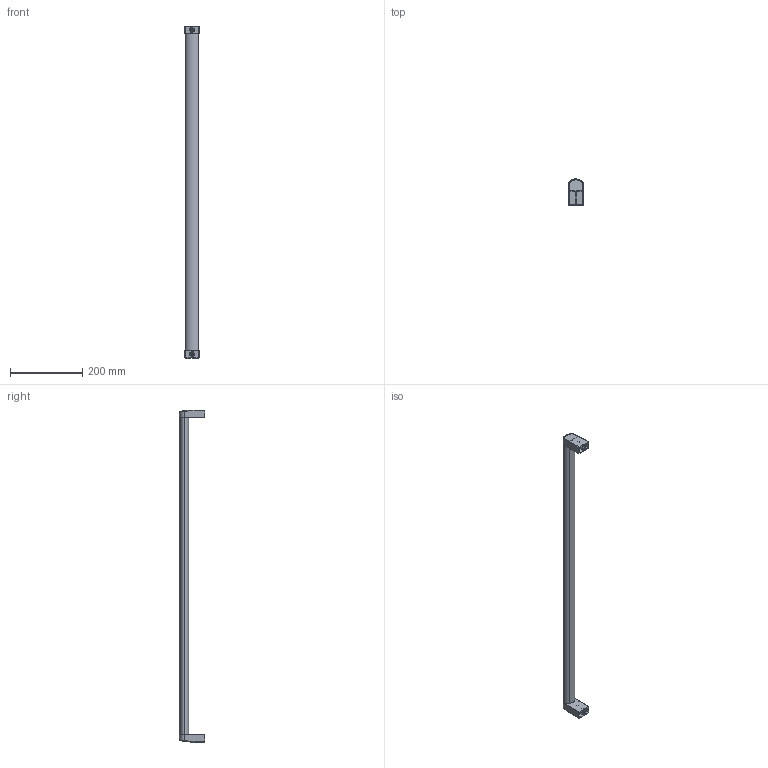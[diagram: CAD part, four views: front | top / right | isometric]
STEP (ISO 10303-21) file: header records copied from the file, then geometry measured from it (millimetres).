
FILE_DESCRIPTION (( 'STEP AP214' ), '1' );
FILE_NAME ('ETP-511A-90.STEP', '2016-01-23T12:37:18', ( '' ), ( '' ), 'SwSTEP 2.0', 'SolidWorks 2012', '' );
FILE_SCHEMA (( 'AUTOMOTIVE_DESIGN' ));
Length unit declared in the file: millimetre
Products named in the file (3): ETP-511AB892; ETP-511AA; ETP-511A-90
Assembly tree (3 placements, depth 2):
  ETP-511A-90
    ETP-511AA  x2
    ETP-511AB892
Bounding box: 40 x 70.99 x 922 mm (x, y, z)
Volume: 355229.8 mm3; surface area: 242430.2 mm2
Topology: 5 solids, 5 shells, 162 faces, 408 edges, 262 vertices
Faces by surface type: plane 68, cylinder 67, bspline 19, cone 8
Entity records: 3632 total; most frequent: CARTESIAN_POINT 1237, ORIENTED_EDGE 482, DIRECTION 473, EDGE_CURVE 241, AXIS2_PLACEMENT_3D 167, VERTEX_POINT 157, LINE 139, VECTOR 139
